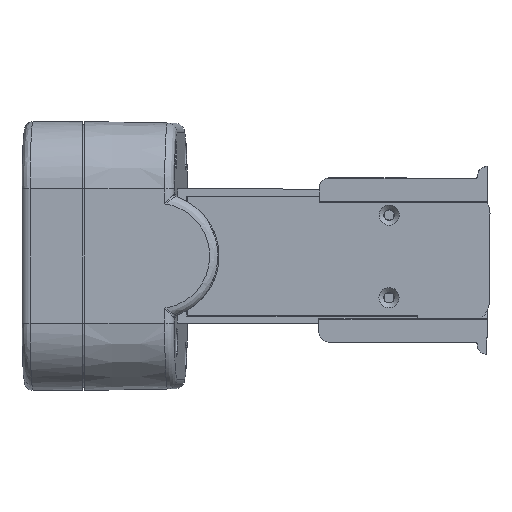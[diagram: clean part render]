
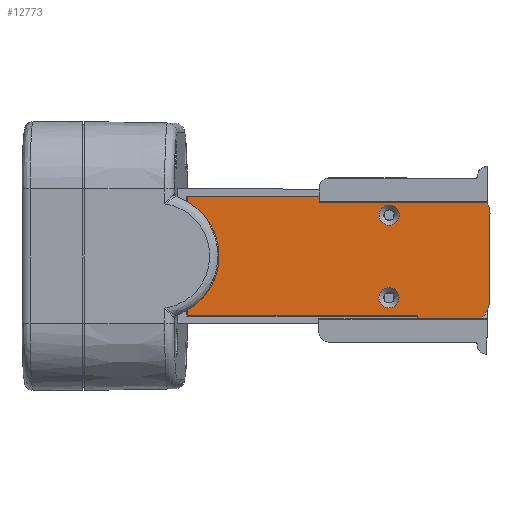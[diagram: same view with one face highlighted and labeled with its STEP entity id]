
A CAD part, left-side view. The second image highlights one B-rep face of the part: STEP entity #12773.
In plain terms, the highlighted planar face has unit normal (-1, 0, 0) as drawn and (0, -1, 0) by its records, which use the part's own axes.
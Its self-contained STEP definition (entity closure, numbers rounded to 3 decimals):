
#12573=CARTESIAN_POINT('',(10.7,0.0,-42.0));
#12574=VERTEX_POINT('',#12573);
#12575=CARTESIAN_POINT('',(8.6,0.0,-42.0));
#12576=DIRECTION('',(0.0,1.0,0.0));
#12577=DIRECTION('',(-1.0,0.0,0.0));
#12578=AXIS2_PLACEMENT_3D('',#12575,#12576,#12577);
#12579=CIRCLE('',#12578,2.1);
#12580=EDGE_CURVE('',#12574,#12574,#12579,.T.);
#12593=CARTESIAN_POINT('',(-6.5,0.0,-42.0));
#12594=VERTEX_POINT('',#12593);
#12595=CARTESIAN_POINT('',(-8.6,0.0,-42.0));
#12596=DIRECTION('',(0.0,1.0,0.0));
#12597=DIRECTION('',(-1.0,0.0,0.0));
#12598=AXIS2_PLACEMENT_3D('',#12595,#12596,#12597);
#12599=CIRCLE('',#12598,2.1);
#12600=EDGE_CURVE('',#12594,#12594,#12599,.T.);
#12621=CARTESIAN_POINT('',(-9.,0.0,-63.));
#12622=VERTEX_POINT('',#12621);
#12629=CARTESIAN_POINT('',(-14.,0.0,-58.));
#12630=VERTEX_POINT('',#12629);
#12631=CARTESIAN_POINT('',(-9.,0.0,-58.));
#12632=DIRECTION('',(0.0,1.0,0.0));
#12633=DIRECTION('',(-0.707,0.0,-0.707));
#12634=AXIS2_PLACEMENT_3D('',#12631,#12632,#12633);
#12635=CIRCLE('',#12634,5.);
#12636=EDGE_CURVE('',#12622,#12630,#12635,.T.);
#12653=CARTESIAN_POINT('',(-14.,0.0,-48.));
#12654=VERTEX_POINT('',#12653);
#12655=CARTESIAN_POINT('',(-14.,0.0,-58.));
#12656=DIRECTION('',(0.0,0.0,1.0));
#12657=VECTOR('',#12656,10.);
#12658=LINE('',#12655,#12657);
#12659=EDGE_CURVE('',#12630,#12654,#12658,.T.);
#12678=CARTESIAN_POINT('',(-12.4,0.0,0.0));
#12679=DIRECTION('',(0.0,-1.0,0.0));
#12680=DIRECTION('',(0.0,0.0,-1.0));
#12681=AXIS2_PLACEMENT_3D('',#12678,#12679,#12680);
#12682=PLANE('',#12681);
#12683=ORIENTED_EDGE('',*,*,#12636,.F.);
#12684=CARTESIAN_POINT('',(9.0,0.0,-63.));
#12685=VERTEX_POINT('',#12684);
#12686=CARTESIAN_POINT('',(9.0,0.0,-63.));
#12687=DIRECTION('',(-1.0,0.0,0.0));
#12688=VECTOR('',#12687,18.);
#12689=LINE('',#12686,#12688);
#12690=EDGE_CURVE('',#12685,#12622,#12689,.T.);
#12691=ORIENTED_EDGE('',*,*,#12690,.F.);
#12692=CARTESIAN_POINT('',(14.,0.0,-58.));
#12693=VERTEX_POINT('',#12692);
#12694=CARTESIAN_POINT('',(9.0,0.0,-58.));
#12695=DIRECTION('',(0.0,1.0,0.0));
#12696=DIRECTION('',(0.707,0.0,-0.707));
#12697=AXIS2_PLACEMENT_3D('',#12694,#12695,#12696);
#12698=CIRCLE('',#12697,5.);
#12699=EDGE_CURVE('',#12693,#12685,#12698,.T.);
#12700=ORIENTED_EDGE('',*,*,#12699,.F.);
#12701=CARTESIAN_POINT('',(14.,0.0,-48.));
#12702=VERTEX_POINT('',#12701);
#12703=CARTESIAN_POINT('',(14.,0.0,-48.));
#12704=DIRECTION('',(0.0,0.0,-1.0));
#12705=VECTOR('',#12704,10.);
#12706=LINE('',#12703,#12705);
#12707=EDGE_CURVE('',#12702,#12693,#12706,.T.);
#12708=ORIENTED_EDGE('',*,*,#12707,.F.);
#12709=CARTESIAN_POINT('',(12.4,0.0,-48.));
#12710=VERTEX_POINT('',#12709);
#12711=CARTESIAN_POINT('',(12.4,0.0,-48.));
#12712=DIRECTION('',(1.0,0.0,0.0));
#12713=VECTOR('',#12712,1.6);
#12714=LINE('',#12711,#12713);
#12715=EDGE_CURVE('',#12710,#12702,#12714,.T.);
#12716=ORIENTED_EDGE('',*,*,#12715,.F.);
#12717=CARTESIAN_POINT('',(12.4,0.0,0.0));
#12718=VERTEX_POINT('',#12717);
#12719=CARTESIAN_POINT('',(12.4,0.0,0.0));
#12720=DIRECTION('',(0.0,0.0,-1.0));
#12721=VECTOR('',#12720,48.);
#12722=LINE('',#12719,#12721);
#12723=EDGE_CURVE('',#12718,#12710,#12722,.T.);
#12724=ORIENTED_EDGE('',*,*,#12723,.F.);
#12725=CARTESIAN_POINT('',(11.315,0.0,0.0));
#12726=VERTEX_POINT('',#12725);
#12727=CARTESIAN_POINT('',(11.315,0.0,0.0));
#12728=DIRECTION('',(1.0,0.0,0.0));
#12729=VECTOR('',#12728,1.085);
#12730=LINE('',#12727,#12729);
#12731=EDGE_CURVE('',#12726,#12718,#12730,.T.);
#12732=ORIENTED_EDGE('',*,*,#12731,.F.);
#12733=CARTESIAN_POINT('',(-11.315,0.0,0.0));
#12734=VERTEX_POINT('',#12733);
#12735=CARTESIAN_POINT('',(0.0,0.0,6.4));
#12736=DIRECTION('',(0.0,1.0,0.0));
#12737=DIRECTION('',(-1.0,0.0,0.0));
#12738=AXIS2_PLACEMENT_3D('',#12735,#12736,#12737);
#12739=CIRCLE('',#12738,13.);
#12740=EDGE_CURVE('',#12726,#12734,#12739,.T.);
#12741=ORIENTED_EDGE('',*,*,#12740,.T.);
#12742=CARTESIAN_POINT('',(-12.4,0.0,0.0));
#12743=VERTEX_POINT('',#12742);
#12744=CARTESIAN_POINT('',(-12.4,0.0,0.0));
#12745=DIRECTION('',(1.0,0.0,0.0));
#12746=VECTOR('',#12745,1.085);
#12747=LINE('',#12744,#12746);
#12748=EDGE_CURVE('',#12743,#12734,#12747,.T.);
#12749=ORIENTED_EDGE('',*,*,#12748,.F.);
#12750=CARTESIAN_POINT('',(-12.4,0.0,-48.));
#12751=VERTEX_POINT('',#12750);
#12752=CARTESIAN_POINT('',(-12.4,0.0,0.0));
#12753=DIRECTION('',(0.0,0.0,-1.0));
#12754=VECTOR('',#12753,48.);
#12755=LINE('',#12752,#12754);
#12756=EDGE_CURVE('',#12743,#12751,#12755,.T.);
#12757=ORIENTED_EDGE('',*,*,#12756,.T.);
#12758=CARTESIAN_POINT('',(-14.,0.0,-48.));
#12759=DIRECTION('',(1.0,0.0,0.0));
#12760=VECTOR('',#12759,1.6);
#12761=LINE('',#12758,#12760);
#12762=EDGE_CURVE('',#12654,#12751,#12761,.T.);
#12763=ORIENTED_EDGE('',*,*,#12762,.F.);
#12764=ORIENTED_EDGE('',*,*,#12659,.F.);
#12765=EDGE_LOOP('',(#12683,#12691,#12700,#12708,#12716,#12724,#12732,#12741,#12749,#12757,#12763,#12764));
#12766=FACE_OUTER_BOUND('',#12765,.T.);
#12767=ORIENTED_EDGE('',*,*,#12580,.T.);
#12768=EDGE_LOOP('',(#12767));
#12769=FACE_BOUND('',#12768,.T.);
#12770=ORIENTED_EDGE('',*,*,#12600,.T.);
#12771=EDGE_LOOP('',(#12770));
#12772=FACE_BOUND('',#12771,.T.);
#12773=ADVANCED_FACE('',(#12766,#12769,#12772),#12682,.T.);
